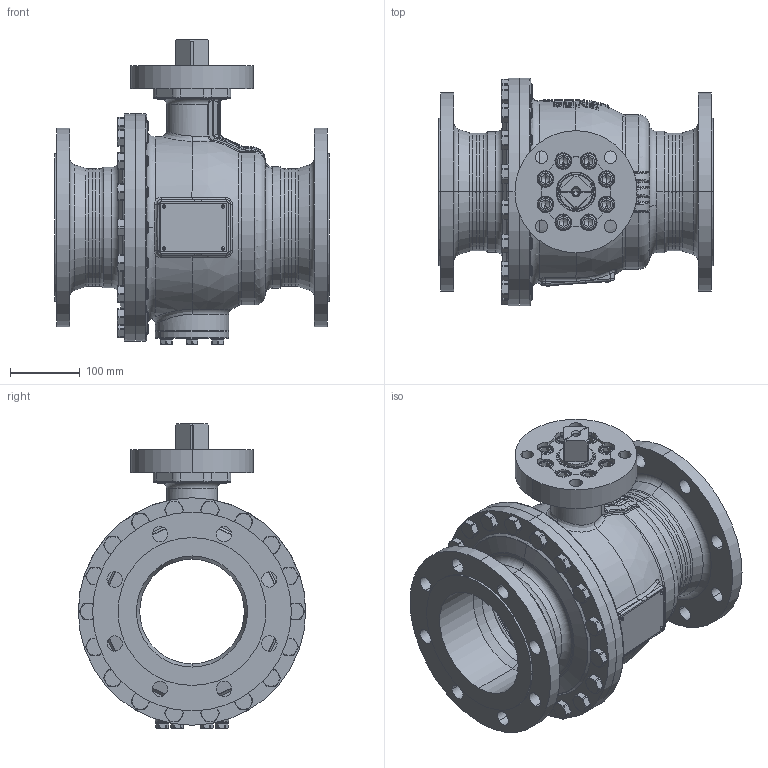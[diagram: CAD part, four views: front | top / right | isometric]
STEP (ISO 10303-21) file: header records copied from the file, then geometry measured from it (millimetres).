
FILE_DESCRIPTION((''),'2;1');
FILE_NAME('KHI-F_150_PN016-F14-4_SW0001','2026-02-05T11:01:17',('fischerkl'),('KLINGER'),'CREO PARAMETRIC BY PTC INC, 2023014','CREO PARAMETRIC BY PTC INC, 2023014','');
FILE_SCHEMA(('CONFIG_CONTROL_DESIGN'));
Products named in the file (1): KHI-F_150_PN016-F14-4_SW0001
Bounding box: 394 x 326 x 436.2 mm (x, y, z)
Volume: 7957888.1 mm3; surface area: 1553386.6 mm2
Topology: 1 solids, 4 shells, 3723 faces, 9554 edges, 5962 vertices
Faces by surface type: plane 2284, cylinder 674, cone 366, torus 258, bspline 113, sphere 28
Entity records: 144498 total; most frequent: CARTESIAN_POINT 56346, ORIENTED_EDGE 19056, DIRECTION 17426, EDGE_CURVE 9528, AXIS2_PLACEMENT_3D 6147, VERTEX_POINT 5962, VECTOR 5132, LINE 5132
